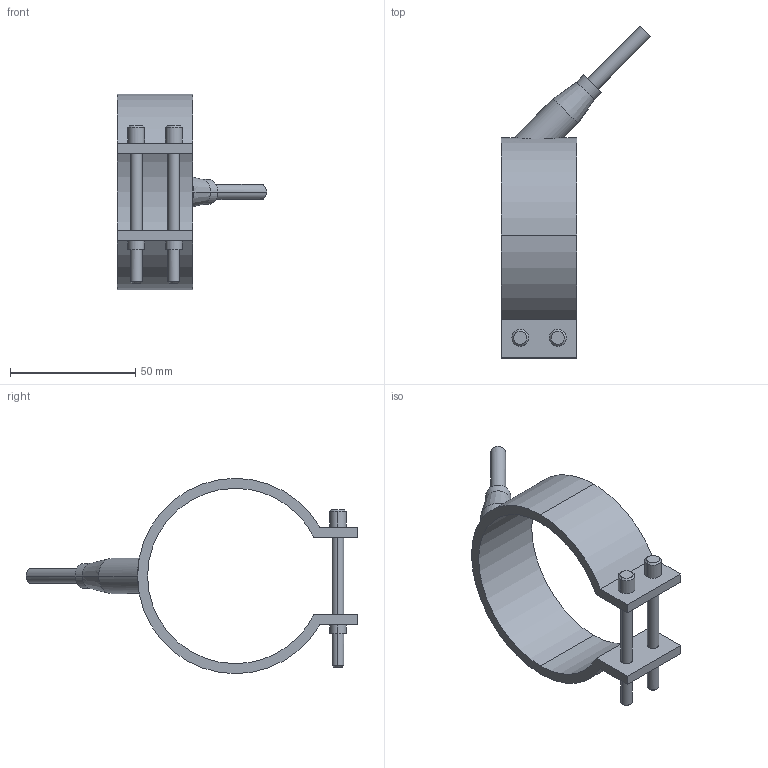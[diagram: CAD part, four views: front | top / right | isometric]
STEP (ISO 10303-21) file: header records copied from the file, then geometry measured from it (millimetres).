
FILE_DESCRIPTION(('CATIA V5 STEP Exchange'),'2;1');
FILE_NAME('C:\Users\Utente\Desktop\IO LAVORO\3D X SITO CF\X SITO\PLASTICA\RF1\29070030.stp','2021-03-27T09:44:17+00:00',('none'),('none'),'CATIA Version 5 Release 20 GA (IN-10)','CATIA V5 STEP AP203','none');
FILE_SCHEMA(('CONFIG_CONTROL_DESIGN'));
Length unit declared in the file: millimetre
Products named in the file (1): 29070030
Bounding box: 59.55 x 132.55 x 78 mm (x, y, z)
Volume: 34490.2 mm3; surface area: 19104.2 mm2
Topology: 1 solids, 1 shells, 54 faces, 126 edges, 82 vertices
Faces by surface type: cylinder 28, plane 16, cone 10
Entity records: 1761 total; most frequent: CARTESIAN_POINT 514, ORIENTED_EDGE 252, DIRECTION 213, EDGE_CURVE 126, AXIS2_PLACEMENT_3D 106, VERTEX_POINT 82, EDGE_LOOP 66, VECTOR 56
